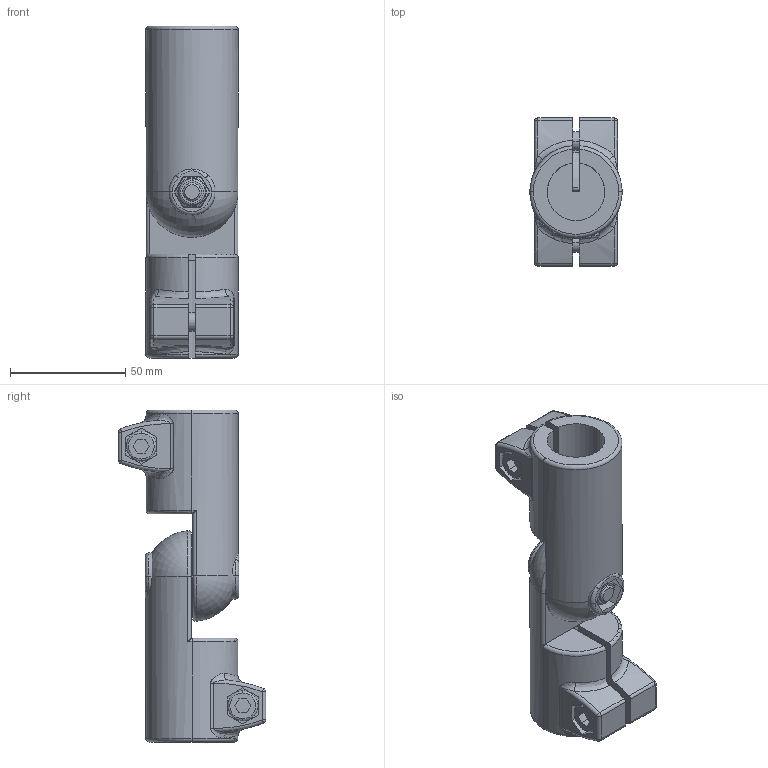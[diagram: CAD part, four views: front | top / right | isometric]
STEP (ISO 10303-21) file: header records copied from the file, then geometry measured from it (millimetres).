
FILE_DESCRIPTION (( 'STEP AP214' ), '1' );
FILE_NAME ('286-B25-B30-S-2-SW.step', '2021-12-02T12:15:57', ( '' ), ( '' ), 'SwSTEP 2.0', 'SolidWorks 2019', '' );
FILE_SCHEMA (( 'AUTOMOTIVE_DESIGN' ));
Length unit declared in the file: millimetre
Products named in the file (3): WB276_1^WB286_B30-MZ-2-SW; WB276^WB286_B25-IV-2-SW; 286-B25-B30-S-2-SW
Assembly tree (2 placements, depth 2):
  286-B25-B30-S-2-SW
    WB276^WB286_B25-IV-2-SW
    WB276_1^WB286_B30-MZ-2-SW
Bounding box: 40 x 64 x 144 mm (x, y, z)
Volume: 125496.4 mm3; surface area: 43933.6 mm2
Topology: 2 solids, 2 shells, 419 faces, 1016 edges, 622 vertices
Faces by surface type: plane 209, cylinder 108, torus 50, cone 24, bspline 20, sphere 8
Entity records: 15928 total; most frequent: CARTESIAN_POINT 5028, ORIENTED_EDGE 2016, DIRECTION 1968, EDGE_CURVE 1008, AXIS2_PLACEMENT_3D 764, VERTEX_POINT 622, EDGE_LOOP 454, VECTOR 440
